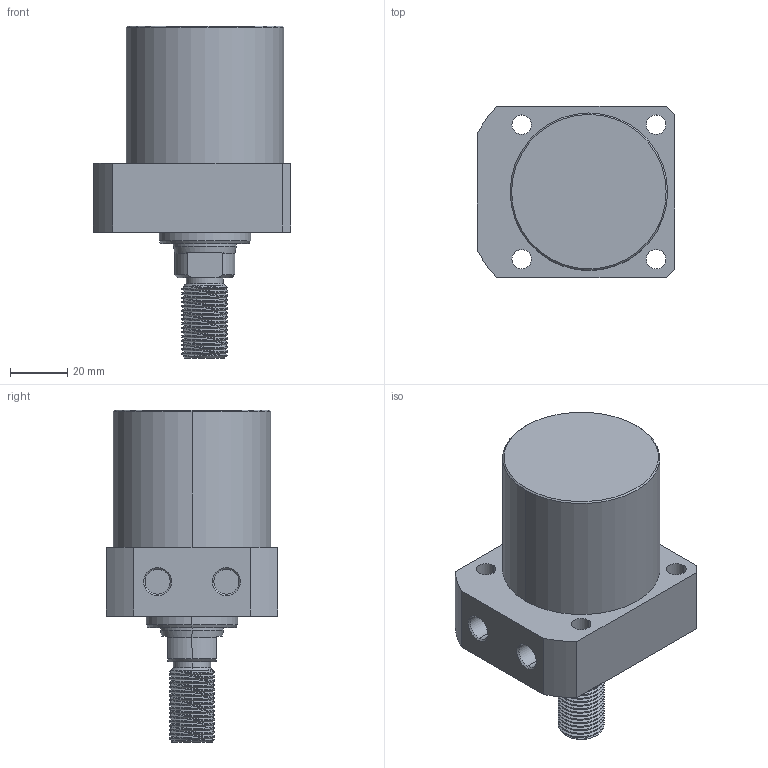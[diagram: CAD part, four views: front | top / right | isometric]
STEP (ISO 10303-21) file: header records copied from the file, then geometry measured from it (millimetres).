
FILE_DESCRIPTION (( 'STEP AP214' ), '1' );
FILE_NAME ('CLLR-055CT-035.STEP', '2020-01-09T00:22:27', ( 'Windows' ), ( 'Microsoft' ), 'SwSTEP 2.0', 'SolidWorks 2015', '' );
FILE_SCHEMA (( 'AUTOMOTIVE_DESIGN' ));
Length unit declared in the file: millimetre
Products named in the file (1): CLLR-055CT-035
Bounding box: 69 x 60 x 116 mm (x, y, z)
Volume: 218432.1 mm3; surface area: 28219.2 mm2
Topology: 1 solids, 1 shells, 100 faces, 257 edges, 167 vertices
Faces by surface type: cylinder 61, plane 20, cone 17, bspline 2
Entity records: 4992 total; most frequent: CARTESIAN_POINT 2668, ORIENTED_EDGE 514, DIRECTION 451, EDGE_CURVE 257, AXIS2_PLACEMENT_3D 176, VERTEX_POINT 167, EDGE_LOOP 116, FACE_OUTER_BOUND 100
